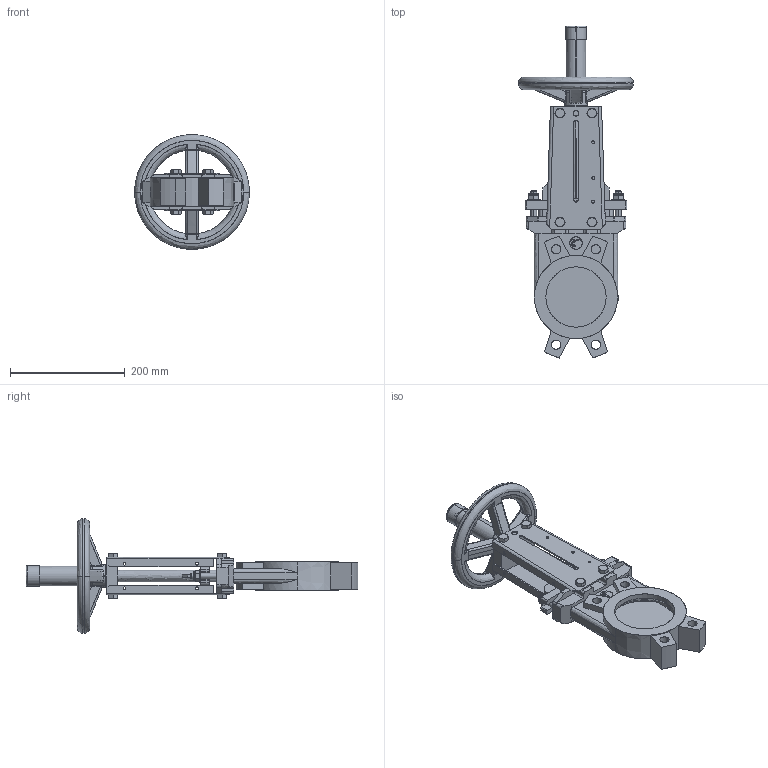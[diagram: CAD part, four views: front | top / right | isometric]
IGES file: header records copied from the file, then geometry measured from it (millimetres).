
Start section: SolidWorks IGES file using analytic representation for surfaces
Global section: file name: D:\part\3D Projects\VG-HANDWHEEL(DN50-600)\VG DN100\VG DN100.IGS; native system: SolidWorks 2009; preprocessor: SolidWorks 2009; author: zhixin.zheng; date: 100127.135339; units: millimetre
Bounding box: 200 x 578.16 x 200 mm (x, y, z)
Surface area: 387022.2 mm2 (no closed solid volume)
Topology: 0 solids, 0 shells, 783 faces, 8370 edges, 8370 vertices
Faces by surface type: bspline 449, revolution 334
